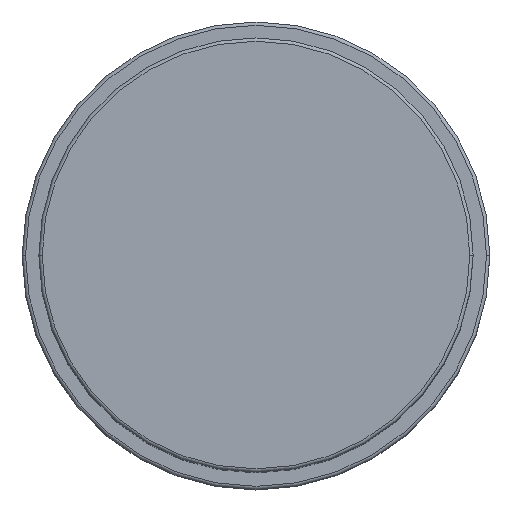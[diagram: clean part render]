
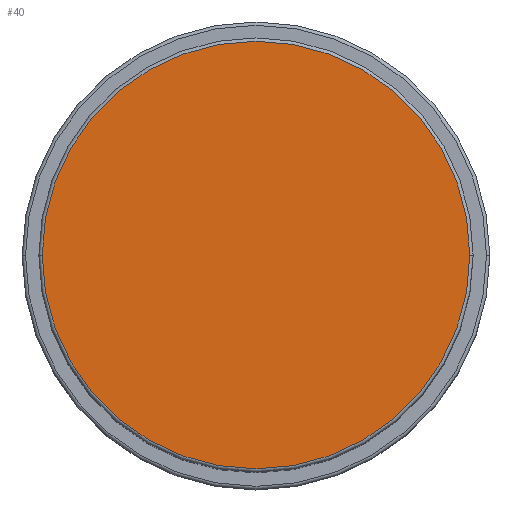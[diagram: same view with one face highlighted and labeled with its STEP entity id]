
A CAD part, top view. The second image highlights one B-rep face of the part: STEP entity #40.
In plain terms, the highlighted planar face has unit normal (0, 0, 1).
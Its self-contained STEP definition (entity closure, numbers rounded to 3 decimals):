
#40 = ADVANCED_FACE ( 'NONE', ( #1303 ), #1390, .T. ) ;
#79 = CARTESIAN_POINT ( 'NONE',  ( -32., 0., 97. ) ) ;
#152 = DIRECTION ( 'NONE',  ( 0., 0., 1. ) ) ;
#367 = AXIS2_PLACEMENT_3D ( 'NONE', #1660, #1506, #820 ) ;
#605 = CIRCLE ( 'NONE', #367, 32. ) ;
#626 = DIRECTION ( 'NONE',  ( 0., 0., 1. ) ) ;
#786 = VERTEX_POINT ( 'NONE', #79 ) ;
#820 = DIRECTION ( 'NONE',  ( 1., 0., 0. ) ) ;
#925 = AXIS2_PLACEMENT_3D ( 'NONE', #1509, #152, #1139 ) ;
#999 = CIRCLE ( 'NONE', #1130, 32. ) ;
#1025 = DIRECTION ( 'NONE',  ( 1., 0., 0. ) ) ;
#1052 = VERTEX_POINT ( 'NONE', #1565 ) ;
#1114 = ORIENTED_EDGE ( 'NONE', *, *, #1306, .T. ) ;
#1130 = AXIS2_PLACEMENT_3D ( 'NONE', #1591, #626, #1025 ) ;
#1139 = DIRECTION ( 'NONE',  ( 1., 0., 0. ) ) ;
#1303 = FACE_OUTER_BOUND ( 'NONE', #1593, .T. ) ;
#1306 = EDGE_CURVE ( 'NONE', #786, #1052, #605, .T. ) ;
#1390 = PLANE ( 'NONE',  #925 ) ;
#1395 = ORIENTED_EDGE ( 'NONE', *, *, #1634, .T. ) ;
#1506 = DIRECTION ( 'NONE',  ( 0., 0., 1. ) ) ;
#1509 = CARTESIAN_POINT ( 'NONE',  ( 0., 0., 97. ) ) ;
#1565 = CARTESIAN_POINT ( 'NONE',  ( 32., 0., 97. ) ) ;
#1591 = CARTESIAN_POINT ( 'NONE',  ( 0., 0., 97. ) ) ;
#1593 = EDGE_LOOP ( 'NONE', ( #1395, #1114 ) ) ;
#1634 = EDGE_CURVE ( 'NONE', #1052, #786, #999, .T. ) ;
#1660 = CARTESIAN_POINT ( 'NONE',  ( 0., 0., 97. ) ) ;
